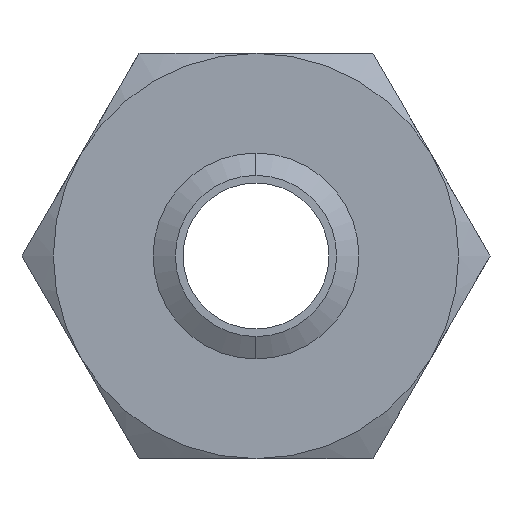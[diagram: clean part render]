
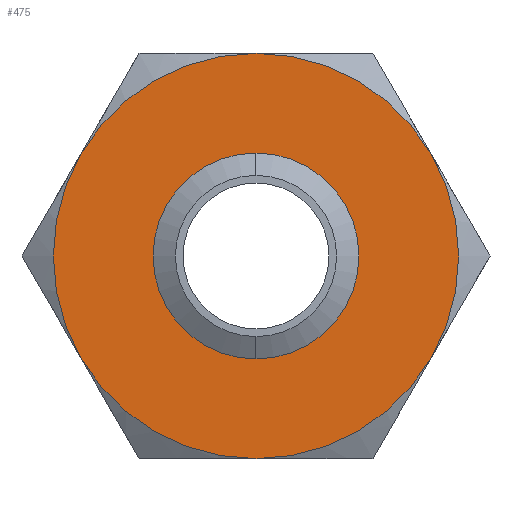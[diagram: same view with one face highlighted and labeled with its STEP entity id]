
A CAD part, front view. The second image highlights one B-rep face of the part: STEP entity #475.
In plain terms, the highlighted planar face has unit normal (0, -1, 0).
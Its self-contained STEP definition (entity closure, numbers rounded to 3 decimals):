
#140 = VERTEX_POINT ( 'NONE', #868 ) ;
#142 = VERTEX_POINT ( 'NONE', #865 ) ;
#144 = EDGE_CURVE ( 'NONE', #140, #142, #854, .T. ) ;
#377 = ORIENTED_EDGE ( 'NONE', *, *, #468, .F. ) ;
#398 = VERTEX_POINT ( 'NONE', #1291 ) ;
#400 = EDGE_LOOP ( 'NONE', ( #401, #377, #471, #421, #423, #425 ) ) ;
#401 = ORIENTED_EDGE ( 'NONE', *, *, #472, .F. ) ;
#405 = VERTEX_POINT ( 'NONE', #1334 ) ;
#414 = EDGE_CURVE ( 'NONE', #405, #469, #1318, .T. ) ;
#420 = VERTEX_POINT ( 'NONE', #1361 ) ;
#421 = ORIENTED_EDGE ( 'NONE', *, *, #429, .F. ) ;
#422 = VERTEX_POINT ( 'NONE', #1359 ) ;
#423 = ORIENTED_EDGE ( 'NONE', *, *, #424, .F. ) ;
#424 = EDGE_CURVE ( 'NONE', #420, #422, #1358, .T. ) ;
#425 = ORIENTED_EDGE ( 'NONE', *, *, #426, .F. ) ;
#426 = EDGE_CURVE ( 'NONE', #398, #420, #1353, .T. ) ;
#429 = EDGE_CURVE ( 'NONE', #422, #405, #1394, .T. ) ;
#430 = ORIENTED_EDGE ( 'NONE', *, *, #431, .F. ) ;
#431 = EDGE_CURVE ( 'NONE', #142, #140, #1390, .T. ) ;
#433 = ORIENTED_EDGE ( 'NONE', *, *, #144, .F. ) ;
#435 = EDGE_LOOP ( 'NONE', ( #433, #430 ) ) ;
#468 = EDGE_CURVE ( 'NONE', #469, #473, #1465, .T. ) ;
#469 = VERTEX_POINT ( 'NONE', #1522 ) ;
#471 = ORIENTED_EDGE ( 'NONE', *, *, #414, .F. ) ;
#472 = EDGE_CURVE ( 'NONE', #473, #398, #1520, .T. ) ;
#473 = VERTEX_POINT ( 'NONE', #1521 ) ;
#475 = ADVANCED_FACE ( 'NONE', ( #1515, #1514 ), #1513, .F. ) ;
#850 = DIRECTION ( 'NONE',  ( 0., 0., -1. ) ) ;
#851 = DIRECTION ( 'NONE',  ( 0., -1., 0. ) ) ;
#852 = CARTESIAN_POINT ( 'NONE',  ( 0., 0., 0. ) ) ;
#853 = AXIS2_PLACEMENT_3D ( 'NONE', #852, #851, #850 ) ;
#854 = CIRCLE ( 'NONE', #853, 9.946 ) ;
#865 = CARTESIAN_POINT ( 'NONE',  ( 0., 0., 9.946 ) ) ;
#868 = CARTESIAN_POINT ( 'NONE',  ( 0., 0., -9.946 ) ) ;
#1291 = CARTESIAN_POINT ( 'NONE',  ( 21.651, 0., 12.5 ) ) ;
#1314 = DIRECTION ( 'NONE',  ( 0., 0., 1. ) ) ;
#1315 = DIRECTION ( 'NONE',  ( 0., 1., 0. ) ) ;
#1316 = CARTESIAN_POINT ( 'NONE',  ( 0., 0., 0. ) ) ;
#1317 = AXIS2_PLACEMENT_3D ( 'NONE', #1316, #1315, #1314 ) ;
#1318 = CIRCLE ( 'NONE', #1317, 25. ) ;
#1334 = CARTESIAN_POINT ( 'NONE',  ( -21.651, 0., -12.5 ) ) ;
#1349 = DIRECTION ( 'NONE',  ( 0., 0., 1. ) ) ;
#1350 = DIRECTION ( 'NONE',  ( 0., 1., 0. ) ) ;
#1351 = CARTESIAN_POINT ( 'NONE',  ( 0., 0., 0. ) ) ;
#1352 = AXIS2_PLACEMENT_3D ( 'NONE', #1351, #1350, #1349 ) ;
#1353 = CIRCLE ( 'NONE', #1352, 25. ) ;
#1354 = DIRECTION ( 'NONE',  ( 0., 0., 1. ) ) ;
#1355 = DIRECTION ( 'NONE',  ( 0., 1., 0. ) ) ;
#1356 = CARTESIAN_POINT ( 'NONE',  ( 0., 0., 0. ) ) ;
#1357 = AXIS2_PLACEMENT_3D ( 'NONE', #1356, #1355, #1354 ) ;
#1358 = CIRCLE ( 'NONE', #1357, 25. ) ;
#1359 = CARTESIAN_POINT ( 'NONE',  ( 0., 0., -25. ) ) ;
#1361 = CARTESIAN_POINT ( 'NONE',  ( 21.651, 0., -12.5 ) ) ;
#1386 = DIRECTION ( 'NONE',  ( 0., 0., -1. ) ) ;
#1387 = DIRECTION ( 'NONE',  ( 0., -1., 0. ) ) ;
#1388 = CARTESIAN_POINT ( 'NONE',  ( 0., 0., 0. ) ) ;
#1389 = AXIS2_PLACEMENT_3D ( 'NONE', #1388, #1387, #1386 ) ;
#1390 = CIRCLE ( 'NONE', #1389, 9.946 ) ;
#1391 = DIRECTION ( 'NONE',  ( 0., 0., 1. ) ) ;
#1392 = DIRECTION ( 'NONE',  ( 0., 1., 0. ) ) ;
#1393 = AXIS2_PLACEMENT_3D ( 'NONE', #1397, #1392, #1391 ) ;
#1394 = CIRCLE ( 'NONE', #1393, 25. ) ;
#1397 = CARTESIAN_POINT ( 'NONE',  ( 0., 0., 0. ) ) ;
#1462 = DIRECTION ( 'NONE',  ( 0., 1., 0. ) ) ;
#1463 = CARTESIAN_POINT ( 'NONE',  ( 0., 0., 0. ) ) ;
#1464 = AXIS2_PLACEMENT_3D ( 'NONE', #1463, #1462, #1523 ) ;
#1465 = CIRCLE ( 'NONE', #1464, 25. ) ;
#1508 = DIRECTION ( 'NONE',  ( 0., 0., 1. ) ) ;
#1509 = DIRECTION ( 'NONE',  ( 0., 1., 0. ) ) ;
#1510 = CARTESIAN_POINT ( 'NONE',  ( 14.434, 0., -25. ) ) ;
#1511 = AXIS2_PLACEMENT_3D ( 'NONE', #1510, #1509, #1508 ) ;
#1513 = PLANE ( 'NONE',  #1511 ) ;
#1514 = FACE_BOUND ( 'NONE', #435, .T. ) ;
#1515 = FACE_OUTER_BOUND ( 'NONE', #400, .T. ) ;
#1516 = DIRECTION ( 'NONE',  ( 0., 0., 1. ) ) ;
#1517 = DIRECTION ( 'NONE',  ( 0., 1., 0. ) ) ;
#1518 = CARTESIAN_POINT ( 'NONE',  ( 0., 0., 0. ) ) ;
#1519 = AXIS2_PLACEMENT_3D ( 'NONE', #1518, #1517, #1516 ) ;
#1520 = CIRCLE ( 'NONE', #1519, 25. ) ;
#1521 = CARTESIAN_POINT ( 'NONE',  ( 0., 0., 25. ) ) ;
#1522 = CARTESIAN_POINT ( 'NONE',  ( -21.651, 0., 12.5 ) ) ;
#1523 = DIRECTION ( 'NONE',  ( 0., 0., 1. ) ) ;
